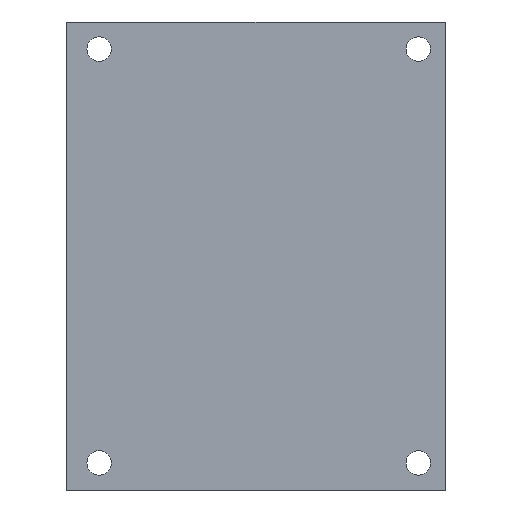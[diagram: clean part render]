
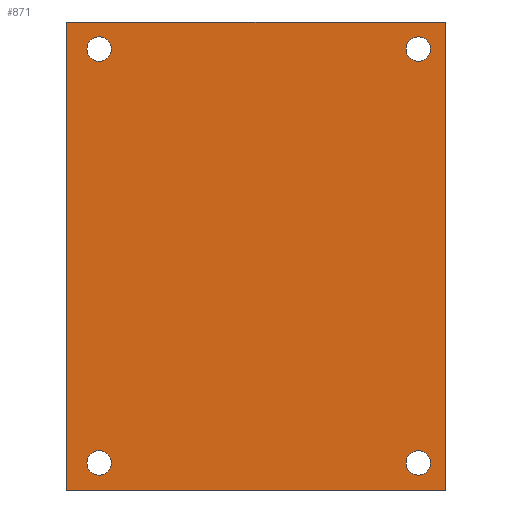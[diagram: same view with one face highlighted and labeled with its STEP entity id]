
A CAD part, front view. The second image highlights one B-rep face of the part: STEP entity #871.
In plain terms, the highlighted planar face has unit normal (0, -1, 0) as drawn and (0, 0, 1) by its records, which use the part's own axes.
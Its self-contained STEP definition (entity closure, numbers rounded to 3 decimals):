
#871=ADVANCED_FACE('',(#1667,#1668,#1669,#1670,#1671),#1672,.T.);
#1667=FACE_BOUND('',#2718,.T.);
#1668=FACE_BOUND('',#2719,.T.);
#1669=FACE_BOUND('',#2720,.T.);
#1670=FACE_BOUND('',#2721,.T.);
#1671=FACE_OUTER_BOUND('',#2722,.T.);
#1672=PLANE('',#2723);
#2718=EDGE_LOOP('',(#5332));
#2719=EDGE_LOOP('',(#5333));
#2720=EDGE_LOOP('',(#5334));
#2721=EDGE_LOOP('',(#5335));
#2722=EDGE_LOOP('',(#5336,#5337,#5338,#5339));
#2723=AXIS2_PLACEMENT_3D('',#5340,#5341,#5342);
#5332=ORIENTED_EDGE('',*,*,#7431,.F.);
#5333=ORIENTED_EDGE('',*,*,#7427,.T.);
#5334=ORIENTED_EDGE('',*,*,#7433,.F.);
#5335=ORIENTED_EDGE('',*,*,#7434,.T.);
#5336=ORIENTED_EDGE('',*,*,#7425,.T.);
#5337=ORIENTED_EDGE('',*,*,#7435,.T.);
#5338=ORIENTED_EDGE('',*,*,#7436,.T.);
#5339=ORIENTED_EDGE('',*,*,#7419,.T.);
#5340=CARTESIAN_POINT('',(-43.25,-35.0,25.889));
#5341=DIRECTION('',(0.0,0.0,1.0));
#5342=DIRECTION('',(1.0,0.0,0.0));
#7419=EDGE_CURVE('',#8995,#8993,#8996,.T.);
#7425=EDGE_CURVE('',#8993,#9004,#9006,.T.);
#7427=EDGE_CURVE('',#9009,#9009,#9010,.T.);
#7431=EDGE_CURVE('',#9017,#9017,#9018,.T.);
#7433=EDGE_CURVE('',#9021,#9021,#9022,.T.);
#7434=EDGE_CURVE('',#9023,#9023,#9024,.T.);
#7435=EDGE_CURVE('',#9004,#9025,#9026,.T.);
#7436=EDGE_CURVE('',#9025,#8995,#9027,.T.);
#8993=VERTEX_POINT('',#11532);
#8995=VERTEX_POINT('',#11535);
#8996=LINE('',#11536,#11537);
#9004=VERTEX_POINT('',#11547);
#9006=LINE('',#11550,#11551);
#9009=VERTEX_POINT('',#11554);
#9010=CIRCLE('',#11555,2.25);
#9017=VERTEX_POINT('',#11562);
#9018=CIRCLE('',#11563,2.25);
#9021=VERTEX_POINT('',#11566);
#9022=CIRCLE('',#11567,2.25);
#9023=VERTEX_POINT('',#11568);
#9024=CIRCLE('',#11569,2.25);
#9025=VERTEX_POINT('',#11570);
#9026=LINE('',#11571,#11572);
#9027=LINE('',#11573,#11574);
#11532=CARTESIAN_POINT('',(-43.25,35.0,25.889));
#11535=CARTESIAN_POINT('',(43.25,35.0,25.889));
#11536=CARTESIAN_POINT('',(43.25,35.0,25.889));
#11537=VECTOR('',#13614,1.0);
#11547=CARTESIAN_POINT('',(-43.25,-35.0,25.889));
#11550=CARTESIAN_POINT('',(-43.25,35.0,25.889));
#11551=VECTOR('',#13624,1.0);
#11554=CARTESIAN_POINT('',(-40.5,30.0,25.889));
#11555=AXIS2_PLACEMENT_3D('',#13628,#13629,#13630);
#11562=CARTESIAN_POINT('',(40.5,30.0,25.889));
#11563=AXIS2_PLACEMENT_3D('',#13640,#13641,#13642);
#11566=CARTESIAN_POINT('',(40.5,-29.0,25.889));
#11567=AXIS2_PLACEMENT_3D('',#13646,#13647,#13648);
#11568=CARTESIAN_POINT('',(-40.5,-29.0,25.889));
#11569=AXIS2_PLACEMENT_3D('',#13649,#13650,#13651);
#11570=CARTESIAN_POINT('',(43.25,-35.0,25.889));
#11571=CARTESIAN_POINT('',(-43.25,-35.0,25.889));
#11572=VECTOR('',#13652,1.0);
#11573=CARTESIAN_POINT('',(43.25,-35.0,25.889));
#11574=VECTOR('',#13653,1.0);
#13614=DIRECTION('',(-1.0,0.0,0.0));
#13624=DIRECTION('',(0.0,-1.0,0.0));
#13628=CARTESIAN_POINT('',(-38.25,30.0,25.889));
#13629=DIRECTION('',(0.0,0.0,-1.0));
#13630=DIRECTION('',(-1.0,0.0,0.0));
#13640=CARTESIAN_POINT('',(38.25,30.0,25.889));
#13641=DIRECTION('',(0.0,0.0,1.0));
#13642=DIRECTION('',(1.0,0.0,0.0));
#13646=CARTESIAN_POINT('',(38.25,-29.0,25.889));
#13647=DIRECTION('',(0.0,0.0,1.0));
#13648=DIRECTION('',(1.0,0.0,0.0));
#13649=CARTESIAN_POINT('',(-38.25,-29.0,25.889));
#13650=DIRECTION('',(0.0,0.0,-1.0));
#13651=DIRECTION('',(-1.0,0.0,0.0));
#13652=DIRECTION('',(1.0,0.0,0.0));
#13653=DIRECTION('',(0.0,1.0,0.0));
